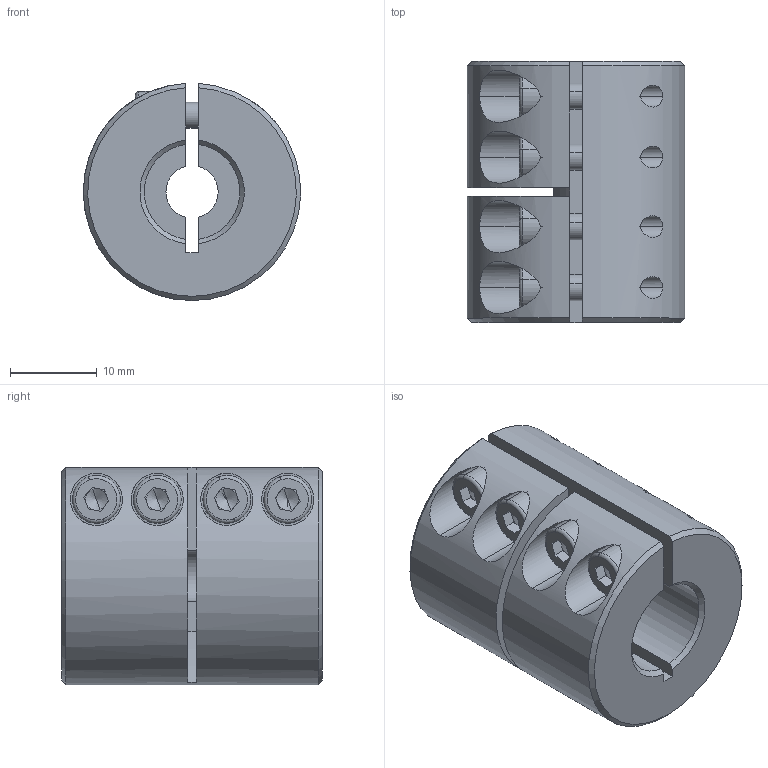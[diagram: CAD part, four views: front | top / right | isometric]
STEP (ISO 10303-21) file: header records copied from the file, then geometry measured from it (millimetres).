
FILE_DESCRIPTION (( 'STEP AP214' ), '1' );
FILE_NAME ('LL-B-D25L30-6-11½¨Ä£.STEP', '2022-07-21T03:11:11', ( '' ), ( '' ), 'SwSTEP 2.0', 'SolidWorks 2022', '' );
FILE_SCHEMA (( 'AUTOMOTIVE_DESIGN' ));
Length unit declared in the file: millimetre
Products named in the file (1): LL-B-D25L30-6-11膘耀
Bounding box: 24.99 x 30 x 24.98 mm (x, y, z)
Volume: 11781.6 mm3; surface area: 5921.4 mm2
Topology: 1 solids, 1 shells, 164 faces, 418 edges, 264 vertices
Faces by surface type: plane 83, cylinder 58, cone 15, torus 8
Entity records: 5402 total; most frequent: CARTESIAN_POINT 1363, DIRECTION 862, ORIENTED_EDGE 820, EDGE_CURVE 410, AXIS2_PLACEMENT_3D 331, VERTEX_POINT 264, LINE 200, VECTOR 200
